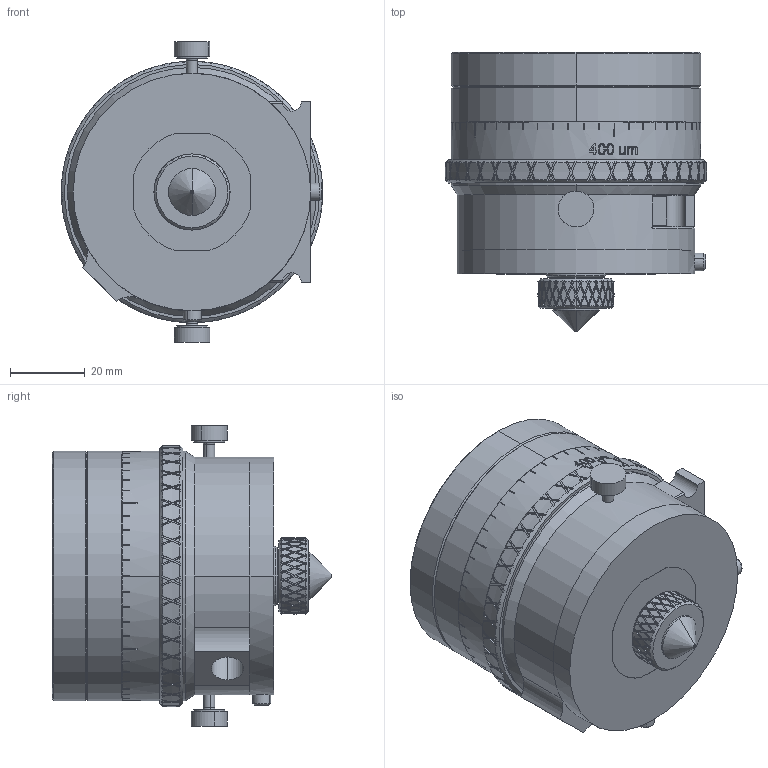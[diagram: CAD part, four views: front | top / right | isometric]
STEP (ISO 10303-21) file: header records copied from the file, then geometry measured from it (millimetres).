
FILE_DESCRIPTION (( 'STEP AP214' ), '1' );
FILE_NAME ('MMH-25-34-60.STEP', '2017-07-27T20:56:09', ( '' ), ( '' ), 'SwSTEP 2.0', 'SolidWorks 2017', '' );
FILE_SCHEMA (( 'AUTOMOTIVE_DESIGN' ));
Length unit declared in the file: inch
Products named in the file (1): MMH-25-34-60
Bounding box: 69.85 x 74.66 x 80.3 mm (x, y, z)
Volume: 175523.2 mm3; surface area: 44311.3 mm2
Topology: 1 solids, 2 shells, 1664 faces, 4842 edges, 3229 vertices
Faces by surface type: plane 1201, cylinder 329, bspline 94, cone 36, torus 4
Entity records: 60179 total; most frequent: CARTESIAN_POINT 20004, ORIENTED_EDGE 9684, DIRECTION 6835, EDGE_CURVE 4842, VERTEX_POINT 3229, VECTOR 2487, LINE 2487, AXIS2_PLACEMENT_3D 2174
